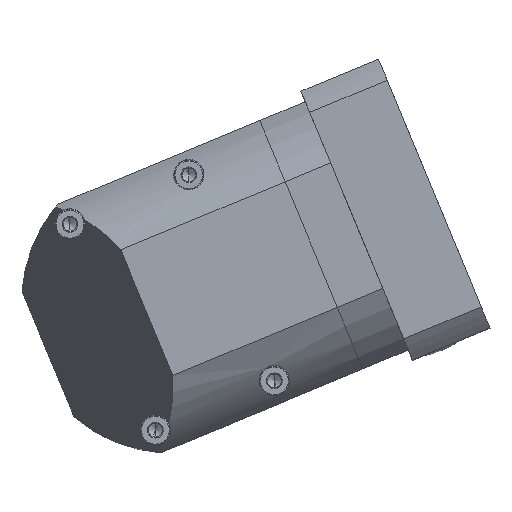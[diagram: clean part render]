
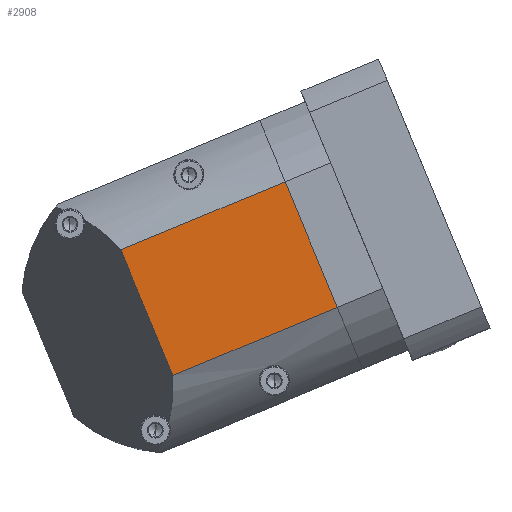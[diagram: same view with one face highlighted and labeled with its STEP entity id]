
A CAD part, top view. The second image highlights one B-rep face of the part: STEP entity #2908.
In plain terms, the highlighted planar face has unit normal (0, 0, 1).
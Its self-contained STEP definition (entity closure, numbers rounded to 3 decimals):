
#165 = ORIENTED_EDGE ( 'NONE', *, *, #3778, .F. ) ;
#500 = CARTESIAN_POINT ( 'NONE',  ( 62.092, 6.427, 239.832 ) ) ;
#1452 = CARTESIAN_POINT ( 'NONE',  ( 62.092, 6.427, 239.832 ) ) ;
#2193 = AXIS2_PLACEMENT_3D ( 'NONE', #1452, #9593, #6556 ) ;
#2908 = ADVANCED_FACE ( 'NONE', ( #17824 ), #12948, .F. ) ;
#3104 = CARTESIAN_POINT ( 'NONE',  ( 0.004, -51.392, 239.832 ) ) ;
#3431 = DIRECTION ( 'NONE',  ( -0.383, 0.924, 0. ) ) ;
#3520 = LINE ( 'NONE', #500, #17703 ) ;
#3778 = EDGE_CURVE ( 'NONE', #13199, #5062, #11354, .T. ) ;
#3894 = CARTESIAN_POINT ( 'NONE',  ( -11.345, -24.025, 239.832 ) ) ;
#4204 = DIRECTION ( 'NONE',  ( -0.924, -0.383, 0. ) ) ;
#5026 = CARTESIAN_POINT ( 'NONE',  ( 38.823, 62.541, 239.832 ) ) ;
#5062 = VERTEX_POINT ( 'NONE', #17887 ) ;
#6556 = DIRECTION ( 'NONE',  ( 0.924, 0.383, 0. ) ) ;
#7150 = ORIENTED_EDGE ( 'NONE', *, *, #12081, .T. ) ;
#8437 = EDGE_CURVE ( 'NONE', #20473, #13199, #3520, .T. ) ;
#9593 = DIRECTION ( 'NONE',  ( 0., 0., -1. ) ) ;
#9918 = CARTESIAN_POINT ( 'NONE',  ( 62.092, 6.427, 239.832 ) ) ;
#10371 = DIRECTION ( 'NONE',  ( -0.924, -0.383, 0. ) ) ;
#10593 = LINE ( 'NONE', #19028, #19575 ) ;
#11354 = LINE ( 'NONE', #3104, #18116 ) ;
#12081 = EDGE_CURVE ( 'NONE', #21027, #5062, #10593, .T. ) ;
#12915 = ORIENTED_EDGE ( 'NONE', *, *, #8437, .F. ) ;
#12948 = PLANE ( 'NONE',  #2193 ) ;
#13060 = EDGE_LOOP ( 'NONE', ( #7150, #165, #12915, #14464 ) ) ;
#13199 = VERTEX_POINT ( 'NONE', #3894 ) ;
#13612 = DIRECTION ( 'NONE',  ( 0.383, -0.924, 0. ) ) ;
#14464 = ORIENTED_EDGE ( 'NONE', *, *, #18431, .F. ) ;
#17703 = VECTOR ( 'NONE', #10371, 1000. ) ;
#17824 = FACE_OUTER_BOUND ( 'NONE', #13060, .T. ) ;
#17887 = CARTESIAN_POINT ( 'NONE',  ( -34.614, 32.089, 239.832 ) ) ;
#17940 = VECTOR ( 'NONE', #13612, 1000. ) ;
#18116 = VECTOR ( 'NONE', #3431, 1000. ) ;
#18431 = EDGE_CURVE ( 'NONE', #21027, #20473, #18565, .T. ) ;
#18565 = LINE ( 'NONE', #9918, #17940 ) ;
#18612 = CARTESIAN_POINT ( 'NONE',  ( 62.092, 6.427, 239.832 ) ) ;
#19028 = CARTESIAN_POINT ( 'NONE',  ( 38.823, 62.541, 239.832 ) ) ;
#19575 = VECTOR ( 'NONE', #4204, 1000. ) ;
#20473 = VERTEX_POINT ( 'NONE', #18612 ) ;
#21027 = VERTEX_POINT ( 'NONE', #5026 ) ;
